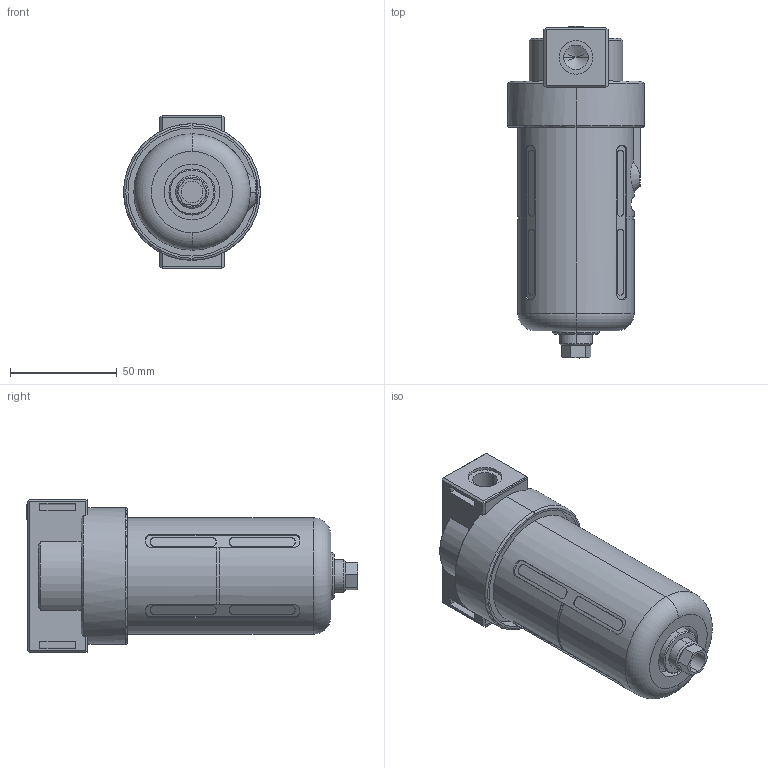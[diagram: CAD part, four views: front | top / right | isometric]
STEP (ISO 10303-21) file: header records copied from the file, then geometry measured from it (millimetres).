
FILE_DESCRIPTION (( 'STEP AP214' ), '1' );
FILE_NAME ('BF-2000.STEP', '2016-01-21T15:55:05', ( '' ), ( '' ), 'SwSTEP 2.0', 'SolidWorks 2016', '' );
FILE_SCHEMA (( 'AUTOMOTIVE_DESIGN' ));
Length unit declared in the file: millimetre
Products named in the file (3): 1; 2; BF-2000
Assembly tree (2 placements, depth 2):
  BF-2000
    1
    2
Bounding box: 64 x 155.45 x 72 mm (x, y, z)
Volume: 163846.7 mm3; surface area: 63968.1 mm2
Topology: 2 solids, 2 shells, 407 faces, 1073 edges, 703 vertices
Faces by surface type: plane 242, cylinder 134, cone 25, torus 6
Entity records: 18096 total; most frequent: CARTESIAN_POINT 3290, ORIENTED_EDGE 2138, DIRECTION 2128, EDGE_CURVE 1069, AXIS2_PLACEMENT_3D 710, LINE 708, VECTOR 708, VERTEX_POINT 703
